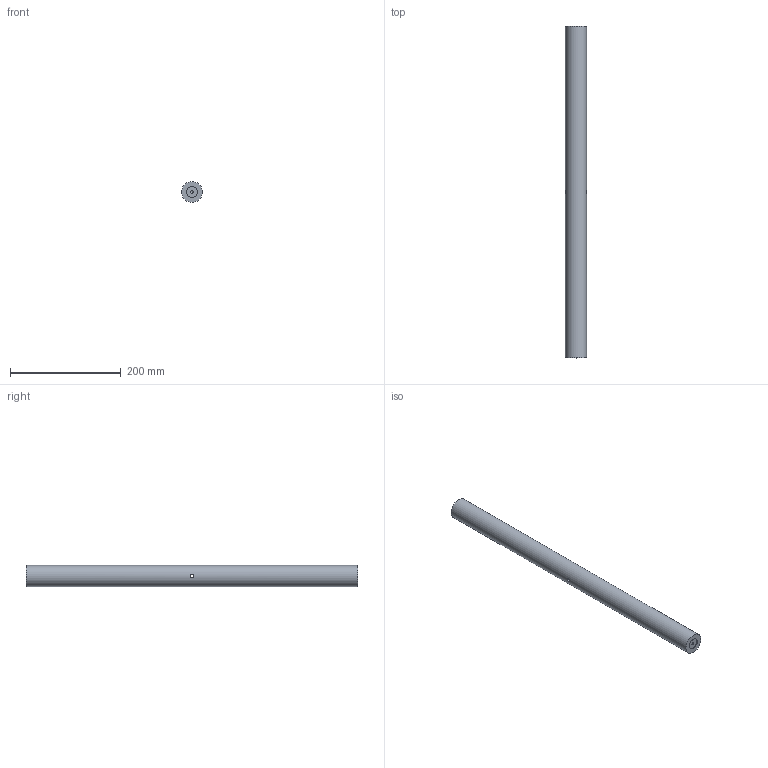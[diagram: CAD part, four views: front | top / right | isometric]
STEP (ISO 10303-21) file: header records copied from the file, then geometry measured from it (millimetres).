
FILE_DESCRIPTION (( 'STEP AP203' ), '1' );
FILE_NAME ('SRA-600.STEP', '2017-02-21T04:02:10', ( '¦K¬P' ), ( '' ), 'SwSTEP 2.0', 'SolidWorks 2012', '' );
FILE_SCHEMA (( 'CONFIG_CONTROL_DESIGN' ));
Length unit declared in the file: millimetre
Products named in the file (1): SRA-600
Bounding box: 38 x 600 x 38 mm (x, y, z)
Volume: 678116.9 mm3; surface area: 75184.4 mm2
Topology: 1 solids, 1 shells, 12 faces, 22 edges, 14 vertices
Faces by surface type: cylinder 6, plane 4, cone 2
Full cylindrical faces by diameter (mm): 5 x1, 5.105 x1, 6 x1, 20 x2, 38 x1
Entity records: 449 total; most frequent: CARTESIAN_POINT 167, DIRECTION 46, EDGE_LOOP 24, ORIENTED_EDGE 24, AXIS2_PLACEMENT_3D 23, FACE_OUTER_BOUND 18, EDGE_CURVE 12, ADVANCED_FACE 12
